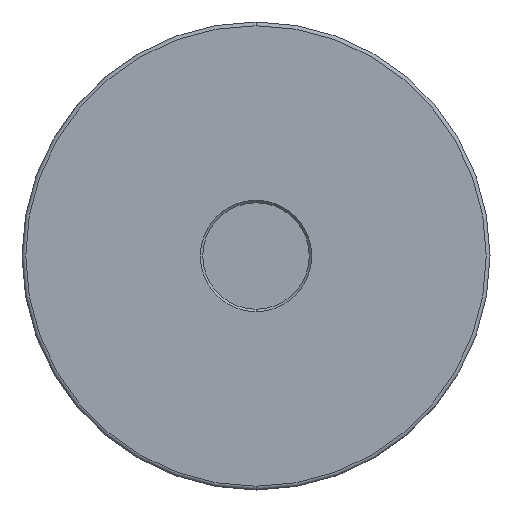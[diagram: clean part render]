
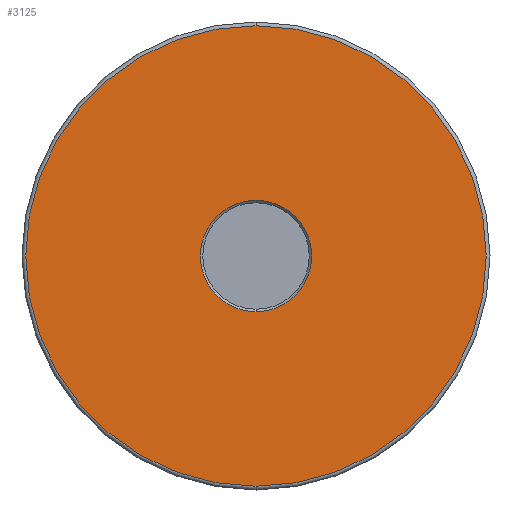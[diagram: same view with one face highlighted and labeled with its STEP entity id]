
A CAD part, front view. The second image highlights one B-rep face of the part: STEP entity #3125.
In plain terms, the highlighted planar face has unit normal (0, -1, 0).
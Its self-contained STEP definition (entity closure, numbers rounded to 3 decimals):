
#99 = DIRECTION ( 'NONE',  ( 0., 1., 0. ) ) ;
#178 = VERTEX_POINT ( 'NONE', #1296 ) ;
#369 = CARTESIAN_POINT ( 'NONE',  ( 0., 0., -29.75 ) ) ;
#504 = CARTESIAN_POINT ( 'NONE',  ( -123., 0., 0. ) ) ;
#513 = CARTESIAN_POINT ( 'NONE',  ( 0., 0., 0. ) ) ;
#571 = EDGE_LOOP ( 'NONE', ( #1996, #5409 ) ) ;
#773 = CIRCLE ( 'NONE', #6074, 123. ) ;
#807 = DIRECTION ( 'NONE',  ( 0., 0., 1. ) ) ;
#877 = EDGE_CURVE ( 'NONE', #1208, #4161, #2183, .T. ) ;
#1103 = AXIS2_PLACEMENT_3D ( 'NONE', #504, #3351, #1919 ) ;
#1208 = VERTEX_POINT ( 'NONE', #5680 ) ;
#1296 = CARTESIAN_POINT ( 'NONE',  ( 0., 0., 29.75 ) ) ;
#1617 = ORIENTED_EDGE ( 'NONE', *, *, #4777, .T. ) ;
#1726 = CIRCLE ( 'NONE', #3579, 29.75 ) ;
#1785 = DIRECTION ( 'NONE',  ( 0., 1., 0. ) ) ;
#1915 = DIRECTION ( 'NONE',  ( 0., 0., 1. ) ) ;
#1919 = DIRECTION ( 'NONE',  ( 0., 0., -1. ) ) ;
#1996 = ORIENTED_EDGE ( 'NONE', *, *, #877, .F. ) ;
#2183 = CIRCLE ( 'NONE', #4153, 123. ) ;
#2295 = CARTESIAN_POINT ( 'NONE',  ( 0., 0., -123. ) ) ;
#2392 = DIRECTION ( 'NONE',  ( 0., 0., 1. ) ) ;
#2561 = CARTESIAN_POINT ( 'NONE',  ( 0., 0., 0. ) ) ;
#2609 = AXIS2_PLACEMENT_3D ( 'NONE', #2561, #3542, #807 ) ;
#2922 = PLANE ( 'NONE',  #1103 ) ;
#2971 = EDGE_LOOP ( 'NONE', ( #4453, #1617 ) ) ;
#2998 = CIRCLE ( 'NONE', #2609, 29.75 ) ;
#3125 = ADVANCED_FACE ( 'NONE', ( #3756, #4836 ), #2922, .T. ) ;
#3351 = DIRECTION ( 'NONE',  ( 0., -1., 0. ) ) ;
#3542 = DIRECTION ( 'NONE',  ( 0., 1., 0. ) ) ;
#3579 = AXIS2_PLACEMENT_3D ( 'NONE', #5195, #4345, #1915 ) ;
#3756 = FACE_BOUND ( 'NONE', #2971, .T. ) ;
#4153 = AXIS2_PLACEMENT_3D ( 'NONE', #513, #99, #2392 ) ;
#4161 = VERTEX_POINT ( 'NONE', #2295 ) ;
#4174 = EDGE_CURVE ( 'NONE', #4935, #178, #1726, .T. ) ;
#4182 = CARTESIAN_POINT ( 'NONE',  ( 0., 0., 0. ) ) ;
#4345 = DIRECTION ( 'NONE',  ( 0., 1., 0. ) ) ;
#4453 = ORIENTED_EDGE ( 'NONE', *, *, #4174, .T. ) ;
#4777 = EDGE_CURVE ( 'NONE', #178, #4935, #2998, .T. ) ;
#4836 = FACE_OUTER_BOUND ( 'NONE', #571, .T. ) ;
#4935 = VERTEX_POINT ( 'NONE', #369 ) ;
#5195 = CARTESIAN_POINT ( 'NONE',  ( 0., 0., 0. ) ) ;
#5409 = ORIENTED_EDGE ( 'NONE', *, *, #5809, .F. ) ;
#5680 = CARTESIAN_POINT ( 'NONE',  ( 0., 0., 123. ) ) ;
#5809 = EDGE_CURVE ( 'NONE', #4161, #1208, #773, .T. ) ;
#6023 = DIRECTION ( 'NONE',  ( 0., 0., 1. ) ) ;
#6074 = AXIS2_PLACEMENT_3D ( 'NONE', #4182, #1785, #6023 ) ;
